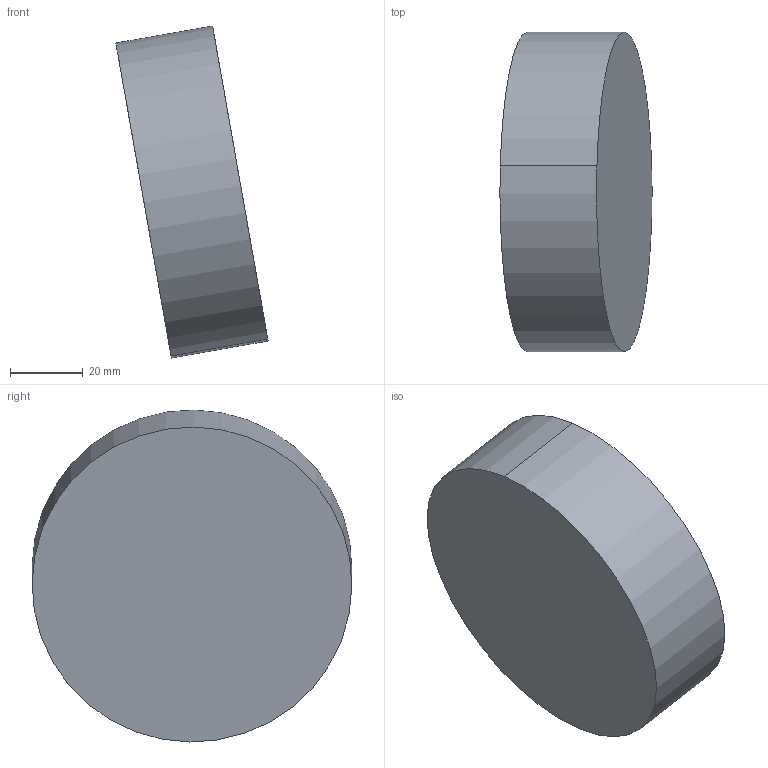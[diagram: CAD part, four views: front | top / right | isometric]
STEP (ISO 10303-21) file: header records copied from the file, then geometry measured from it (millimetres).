
FILE_DESCRIPTION (( 'STEP AP214' ), '1' );
FILE_NAME ('Joint5.STEP', '2019-03-22T05:12:09', ( '' ), ( '' ), 'SwSTEP 2.0', 'SolidWorks 2018', '' );
FILE_SCHEMA (( 'AUTOMOTIVE_DESIGN' ));
Length unit declared in the file: millimetre
Products named in the file (2): Joint5; Scorbot_ER9-5_Predeterminado
Assembly tree (1 placements, depth 2):
  Joint5
    Scorbot_ER9-5_Predeterminado
Bounding box: 41.87 x 87.99 x 91.34 mm (x, y, z)
Volume: 164217.3 mm3; surface area: 19628.7 mm2
Topology: 1 solids, 1 shells, 4 faces, 6 edges, 4 vertices
Faces by surface type: cylinder 2, plane 2
Entity records: 160 total; most frequent: DIRECTION 26, CARTESIAN_POINT 18, AXIS2_PLACEMENT_3D 12, ORIENTED_EDGE 12, EDGE_CURVE 6, FACE_OUTER_BOUND 4, VERTEX_POINT 4, UNCERTAINTY_MEASURE_WITH_UNIT 4
